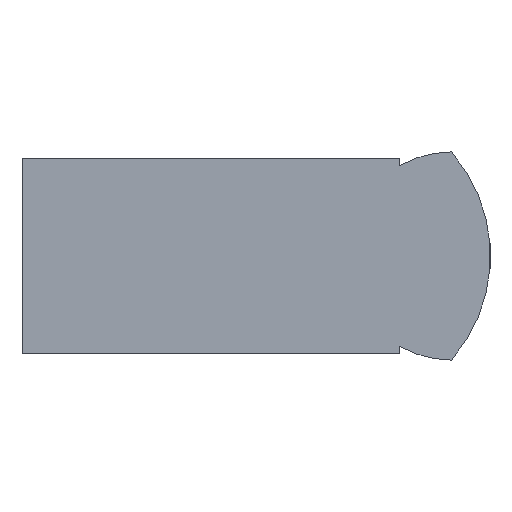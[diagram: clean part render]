
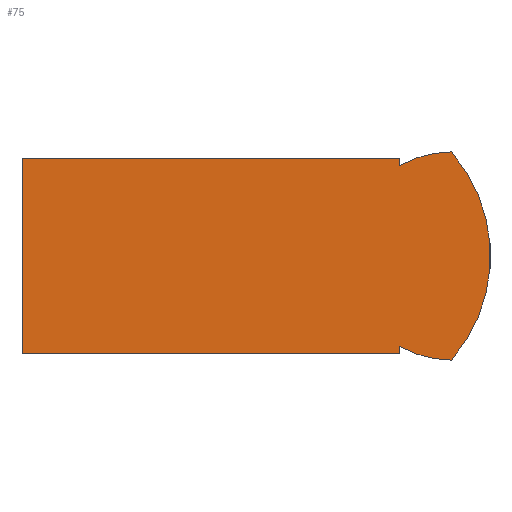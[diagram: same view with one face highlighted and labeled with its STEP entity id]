
A CAD part, left-side view. The second image highlights one B-rep face of the part: STEP entity #75.
In plain terms, the highlighted planar face has unit normal (-1, 0, 0).
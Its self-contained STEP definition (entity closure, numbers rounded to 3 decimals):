
#75 = ADVANCED_FACE( '', ( #154 ), #155, .F. );
#154 = FACE_OUTER_BOUND( '', #229, .T. );
#155 = PLANE( '', #230 );
#229 = EDGE_LOOP( '', ( #370, #371, #372, #373, #374, #375, #376, #377 ) );
#230 = AXIS2_PLACEMENT_3D( '', #378, #379, #380 );
#370 = ORIENTED_EDGE( '', *, *, #436, .F. );
#371 = ORIENTED_EDGE( '', *, *, #448, .T. );
#372 = ORIENTED_EDGE( '', *, *, #444, .T. );
#373 = ORIENTED_EDGE( '', *, *, #462, .F. );
#374 = ORIENTED_EDGE( '', *, *, #481, .F. );
#375 = ORIENTED_EDGE( '', *, *, #473, .T. );
#376 = ORIENTED_EDGE( '', *, *, #432, .F. );
#377 = ORIENTED_EDGE( '', *, *, #482, .F. );
#378 = CARTESIAN_POINT( '', ( -6., -28.416, 0. ) );
#379 = DIRECTION( '', ( 1., 0., 0. ) );
#380 = DIRECTION( '', ( 0., 0., -1. ) );
#432 = EDGE_CURVE( '', #505, #507, #508, .T. );
#436 = EDGE_CURVE( '', #513, #515, #516, .T. );
#444 = EDGE_CURVE( '', #529, #526, #530, .T. );
#448 = EDGE_CURVE( '', #513, #529, #535, .T. );
#462 = EDGE_CURVE( '', #554, #526, #555, .T. );
#473 = EDGE_CURVE( '', #570, #507, #571, .T. );
#481 = EDGE_CURVE( '', #570, #554, #580, .T. );
#482 = EDGE_CURVE( '', #515, #505, #581, .T. );
#505 = VERTEX_POINT( '', #609 );
#507 = VERTEX_POINT( '', #612 );
#508 = CIRCLE( '', #613, 8. );
#513 = VERTEX_POINT( '', #619 );
#515 = VERTEX_POINT( '', #622 );
#516 = CIRCLE( '', #623, 8. );
#526 = VERTEX_POINT( '', #636 );
#529 = VERTEX_POINT( '', #640 );
#530 = LINE( '', #641, #642 );
#535 = LINE( '', #649, #650 );
#554 = VERTEX_POINT( '', #673 );
#555 = LINE( '', #674, #675 );
#570 = VERTEX_POINT( '', #695 );
#571 = LINE( '', #696, #697 );
#580 = LINE( '', #710, #711 );
#581 = CIRCLE( '', #712, 12.167 );
#609 = CARTESIAN_POINT( '', ( -6., -33., -8. ) );
#612 = CARTESIAN_POINT( '', ( -6., -29., -6.928 ) );
#613 = AXIS2_PLACEMENT_3D( '', #731, #732, #733 );
#619 = CARTESIAN_POINT( '', ( -6., -29., 6.928 ) );
#622 = CARTESIAN_POINT( '', ( -6., -33., 8. ) );
#623 = AXIS2_PLACEMENT_3D( '', #739, #740, #741 );
#636 = CARTESIAN_POINT( '', ( -6., 0., 7.5 ) );
#640 = CARTESIAN_POINT( '', ( -6., -29., 7.5 ) );
#641 = CARTESIAN_POINT( '', ( -6., -29., 7.5 ) );
#642 = VECTOR( '', #752, 1000. );
#649 = CARTESIAN_POINT( '', ( -6., -29., -7.5 ) );
#650 = VECTOR( '', #755, 1000. );
#673 = CARTESIAN_POINT( '', ( -6., 0., -7.5 ) );
#674 = CARTESIAN_POINT( '', ( -6., 0., -7.5 ) );
#675 = VECTOR( '', #772, 1000. );
#695 = CARTESIAN_POINT( '', ( -6., -29., -7.5 ) );
#696 = CARTESIAN_POINT( '', ( -6., -29., -7.5 ) );
#697 = VECTOR( '', #781, 1000. );
#710 = CARTESIAN_POINT( '', ( -6., -29., -7.5 ) );
#711 = VECTOR( '', #786, 1000. );
#712 = AXIS2_PLACEMENT_3D( '', #787, #788, #789 );
#731 = CARTESIAN_POINT( '', ( -6., -33., 0. ) );
#732 = DIRECTION( '', ( 1., 0., 0. ) );
#733 = DIRECTION( '', ( 0., 0., -1. ) );
#739 = CARTESIAN_POINT( '', ( -6., -33., 0. ) );
#740 = DIRECTION( '', ( 1., 0., 0. ) );
#741 = DIRECTION( '', ( 0., 0., -1. ) );
#752 = DIRECTION( '', ( 0., 1., 0. ) );
#755 = DIRECTION( '', ( 0., 0., 1. ) );
#772 = DIRECTION( '', ( 0., 0., 1. ) );
#781 = DIRECTION( '', ( 0., 0., 1. ) );
#786 = DIRECTION( '', ( 0., 1., 0. ) );
#787 = CARTESIAN_POINT( '', ( -6., -23.833, 0. ) );
#788 = DIRECTION( '', ( 1., 0., 0. ) );
#789 = DIRECTION( '', ( 0., 0., -1. ) );
